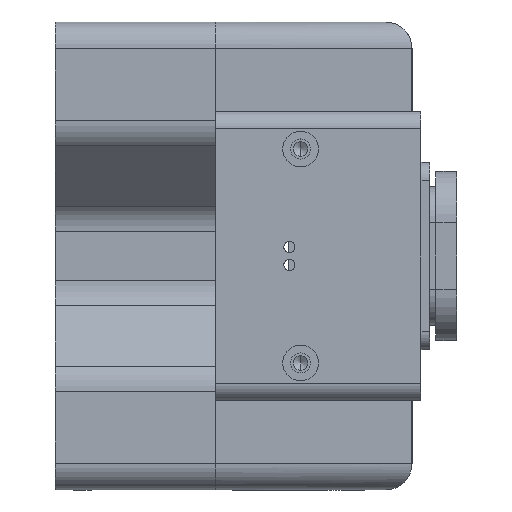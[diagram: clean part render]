
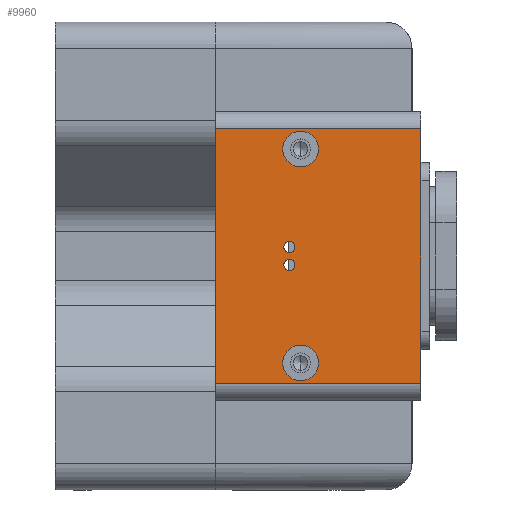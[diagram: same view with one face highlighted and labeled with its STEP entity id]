
A CAD part, left-side view. The second image highlights one B-rep face of the part: STEP entity #9960.
In plain terms, the highlighted planar face has unit normal (-1, 0, 0).
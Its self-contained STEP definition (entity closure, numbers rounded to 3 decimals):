
#360 = AXIS2_PLACEMENT_3D ( 'NONE', #12177, #7546, #16787 ) ;
#500 = EDGE_CURVE ( 'NONE', #3686, #11746, #12392, .T. ) ;
#686 = DIRECTION ( 'NONE',  ( 0., 0., 1. ) ) ;
#819 = EDGE_CURVE ( 'NONE', #3307, #10131, #12138, .T. ) ;
#1034 = DIRECTION ( 'NONE',  ( 1., 0., 0. ) ) ;
#1179 = DIRECTION ( 'NONE',  ( -1., 0., 0. ) ) ;
#1634 = CARTESIAN_POINT ( 'NONE',  ( -111., 27.5, 0.75 ) ) ;
#1791 = ORIENTED_EDGE ( 'NONE', *, *, #16209, .F. ) ;
#1939 = CARTESIAN_POINT ( 'NONE',  ( -111., 44., 28.5 ) ) ;
#2199 = DIRECTION ( 'NONE',  ( 0., -1., 0. ) ) ;
#2244 = CARTESIAN_POINT ( 'NONE',  ( -111., -2., 0. ) ) ;
#2263 = AXIS2_PLACEMENT_3D ( 'NONE', #10209, #1034, #11738 ) ;
#2313 = DIRECTION ( 'NONE',  ( 0., 0., -1. ) ) ;
#2815 = CIRCLE ( 'NONE', #10055, 1.25 ) ;
#3033 = EDGE_CURVE ( 'NONE', #10833, #17561, #19664, .T. ) ;
#3225 = FACE_BOUND ( 'NONE', #15984, .T. ) ;
#3298 = AXIS2_PLACEMENT_3D ( 'NONE', #13615, #7465, #5734 ) ;
#3307 = VERTEX_POINT ( 'NONE', #8669 ) ;
#3319 = AXIS2_PLACEMENT_3D ( 'NONE', #6664, #6790, #686 ) ;
#3686 = VERTEX_POINT ( 'NONE', #12807 ) ;
#4153 = VERTEX_POINT ( 'NONE', #9559 ) ;
#4156 = DIRECTION ( 'NONE',  ( 0., 0., 1. ) ) ;
#4277 = CARTESIAN_POINT ( 'NONE',  ( -111., 27.5, -3.25 ) ) ;
#4320 = AXIS2_PLACEMENT_3D ( 'NONE', #4348, #1179, #4156 ) ;
#4348 = CARTESIAN_POINT ( 'NONE',  ( -111., 25., 24. ) ) ;
#4443 = CARTESIAN_POINT ( 'NONE',  ( -111., -2., -28.5 ) ) ;
#4530 = CIRCLE ( 'NONE', #16964, 1.25 ) ;
#4644 = FACE_BOUND ( 'NONE', #10130, .T. ) ;
#4944 = DIRECTION ( 'NONE',  ( 0., 0., 1. ) ) ;
#5014 = DIRECTION ( 'NONE',  ( -1., 0., 0. ) ) ;
#5148 = ORIENTED_EDGE ( 'NONE', *, *, #6018, .F. ) ;
#5255 = CARTESIAN_POINT ( 'NONE',  ( -111., 44., 32.5 ) ) ;
#5658 = CIRCLE ( 'NONE', #3319, 4. ) ;
#5717 = EDGE_CURVE ( 'NONE', #4153, #15520, #5658, .T. ) ;
#5734 = DIRECTION ( 'NONE',  ( 0., 0., 1. ) ) ;
#5826 = EDGE_CURVE ( 'NONE', #17561, #16835, #6130, .T. ) ;
#5938 = AXIS2_PLACEMENT_3D ( 'NONE', #9956, #12892, #19187 ) ;
#6018 = EDGE_CURVE ( 'NONE', #8710, #11823, #15923, .T. ) ;
#6130 = LINE ( 'NONE', #2244, #18813 ) ;
#6237 = CARTESIAN_POINT ( 'NONE',  ( -111., 25., -20. ) ) ;
#6664 = CARTESIAN_POINT ( 'NONE',  ( -111., 25., -24. ) ) ;
#6790 = DIRECTION ( 'NONE',  ( -1., 0., 0. ) ) ;
#7233 = DIRECTION ( 'NONE',  ( -1., 0., 0. ) ) ;
#7465 = DIRECTION ( 'NONE',  ( -1., 0., 0. ) ) ;
#7546 = DIRECTION ( 'NONE',  ( -1., 0., 0. ) ) ;
#7965 = ORIENTED_EDGE ( 'NONE', *, *, #15192, .F. ) ;
#8140 = DIRECTION ( 'NONE',  ( -1., 0., 0. ) ) ;
#8151 = VECTOR ( 'NONE', #2199, 1000. ) ;
#8669 = CARTESIAN_POINT ( 'NONE',  ( -111., 27.5, 3.25 ) ) ;
#8710 = VERTEX_POINT ( 'NONE', #10797 ) ;
#9154 = EDGE_LOOP ( 'NONE', ( #5148, #11340 ) ) ;
#9559 = CARTESIAN_POINT ( 'NONE',  ( -111., 25., -28. ) ) ;
#9865 = DIRECTION ( 'NONE',  ( 0., 0., 1. ) ) ;
#9956 = CARTESIAN_POINT ( 'NONE',  ( -111., 25., -24. ) ) ;
#9960 = ADVANCED_FACE ( 'NONE', ( #18541, #14443, #4644, #3225, #10864 ), #19378, .F. ) ;
#9963 = EDGE_CURVE ( 'NONE', #11823, #8710, #10837, .T. ) ;
#10055 = AXIS2_PLACEMENT_3D ( 'NONE', #14930, #7233, #16153 ) ;
#10130 = EDGE_LOOP ( 'NONE', ( #15237, #15168 ) ) ;
#10131 = VERTEX_POINT ( 'NONE', #1634 ) ;
#10209 = CARTESIAN_POINT ( 'NONE',  ( -111., -2., 32.5 ) ) ;
#10260 = CIRCLE ( 'NONE', #5938, 4. ) ;
#10797 = CARTESIAN_POINT ( 'NONE',  ( -111., 25., 28. ) ) ;
#10833 = VERTEX_POINT ( 'NONE', #1939 ) ;
#10837 = CIRCLE ( 'NONE', #3298, 4. ) ;
#10864 = FACE_OUTER_BOUND ( 'NONE', #15869, .T. ) ;
#11340 = ORIENTED_EDGE ( 'NONE', *, *, #9963, .F. ) ;
#11602 = CARTESIAN_POINT ( 'NONE',  ( -111., -2., 28.5 ) ) ;
#11616 = EDGE_CURVE ( 'NONE', #16835, #19826, #14442, .T. ) ;
#11738 = DIRECTION ( 'NONE',  ( 0., 0., -1. ) ) ;
#11746 = VERTEX_POINT ( 'NONE', #4277 ) ;
#11823 = VERTEX_POINT ( 'NONE', #13774 ) ;
#11826 = DIRECTION ( 'NONE',  ( 0., 0., 1. ) ) ;
#11850 = VECTOR ( 'NONE', #9865, 1000. ) ;
#12138 = CIRCLE ( 'NONE', #15754, 1.25 ) ;
#12177 = CARTESIAN_POINT ( 'NONE',  ( -111., 27.5, -2. ) ) ;
#12392 = CIRCLE ( 'NONE', #360, 1.25 ) ;
#12780 = VECTOR ( 'NONE', #16690, 1000. ) ;
#12807 = CARTESIAN_POINT ( 'NONE',  ( -111., 27.5, -0.75 ) ) ;
#12892 = DIRECTION ( 'NONE',  ( -1., 0., 0. ) ) ;
#13486 = ORIENTED_EDGE ( 'NONE', *, *, #819, .F. ) ;
#13615 = CARTESIAN_POINT ( 'NONE',  ( -111., 25., 24. ) ) ;
#13619 = EDGE_CURVE ( 'NONE', #11746, #3686, #4530, .T. ) ;
#13761 = EDGE_CURVE ( 'NONE', #15520, #4153, #10260, .T. ) ;
#13774 = CARTESIAN_POINT ( 'NONE',  ( -111., 25., 20. ) ) ;
#13828 = ORIENTED_EDGE ( 'NONE', *, *, #3033, .F. ) ;
#13963 = EDGE_LOOP ( 'NONE', ( #18512, #15603 ) ) ;
#14030 = CARTESIAN_POINT ( 'NONE',  ( -111., 27.5, -2. ) ) ;
#14442 = LINE ( 'NONE', #4443, #12780 ) ;
#14443 = FACE_BOUND ( 'NONE', #9154, .T. ) ;
#14491 = LINE ( 'NONE', #5255, #11850 ) ;
#14930 = CARTESIAN_POINT ( 'NONE',  ( -111., 27.5, 2. ) ) ;
#15168 = ORIENTED_EDGE ( 'NONE', *, *, #13619, .F. ) ;
#15180 = CARTESIAN_POINT ( 'NONE',  ( -111., 27.5, 2. ) ) ;
#15192 = EDGE_CURVE ( 'NONE', #10131, #3307, #2815, .T. ) ;
#15237 = ORIENTED_EDGE ( 'NONE', *, *, #500, .F. ) ;
#15375 = CARTESIAN_POINT ( 'NONE',  ( -111., 44., -28.5 ) ) ;
#15520 = VERTEX_POINT ( 'NONE', #6237 ) ;
#15603 = ORIENTED_EDGE ( 'NONE', *, *, #5717, .F. ) ;
#15712 = CARTESIAN_POINT ( 'NONE',  ( -111., -2., 28.5 ) ) ;
#15754 = AXIS2_PLACEMENT_3D ( 'NONE', #15180, #5014, #11826 ) ;
#15869 = EDGE_LOOP ( 'NONE', ( #1791, #18979, #17594, #13828 ) ) ;
#15923 = CIRCLE ( 'NONE', #4320, 4. ) ;
#15984 = EDGE_LOOP ( 'NONE', ( #13486, #7965 ) ) ;
#16153 = DIRECTION ( 'NONE',  ( 0., 0., 1. ) ) ;
#16209 = EDGE_CURVE ( 'NONE', #19826, #10833, #14491, .T. ) ;
#16690 = DIRECTION ( 'NONE',  ( 0., 1., 0. ) ) ;
#16787 = DIRECTION ( 'NONE',  ( 0., 0., 1. ) ) ;
#16835 = VERTEX_POINT ( 'NONE', #19225 ) ;
#16964 = AXIS2_PLACEMENT_3D ( 'NONE', #14030, #8140, #4944 ) ;
#17561 = VERTEX_POINT ( 'NONE', #11602 ) ;
#17594 = ORIENTED_EDGE ( 'NONE', *, *, #5826, .F. ) ;
#18512 = ORIENTED_EDGE ( 'NONE', *, *, #13761, .F. ) ;
#18541 = FACE_BOUND ( 'NONE', #13963, .T. ) ;
#18813 = VECTOR ( 'NONE', #2313, 1000. ) ;
#18979 = ORIENTED_EDGE ( 'NONE', *, *, #11616, .F. ) ;
#19187 = DIRECTION ( 'NONE',  ( 0., 0., 1. ) ) ;
#19225 = CARTESIAN_POINT ( 'NONE',  ( -111., -2., -28.5 ) ) ;
#19378 = PLANE ( 'NONE',  #2263 ) ;
#19664 = LINE ( 'NONE', #15712, #8151 ) ;
#19826 = VERTEX_POINT ( 'NONE', #15375 ) ;
